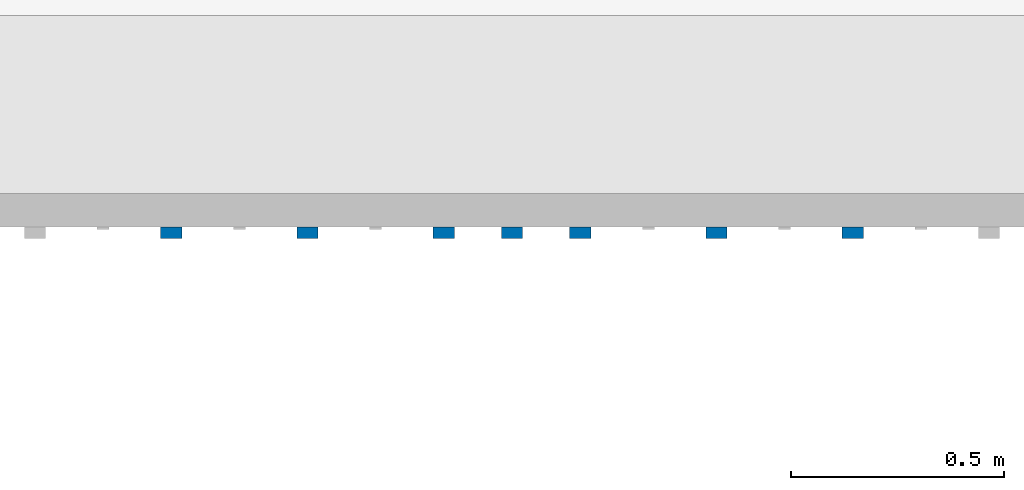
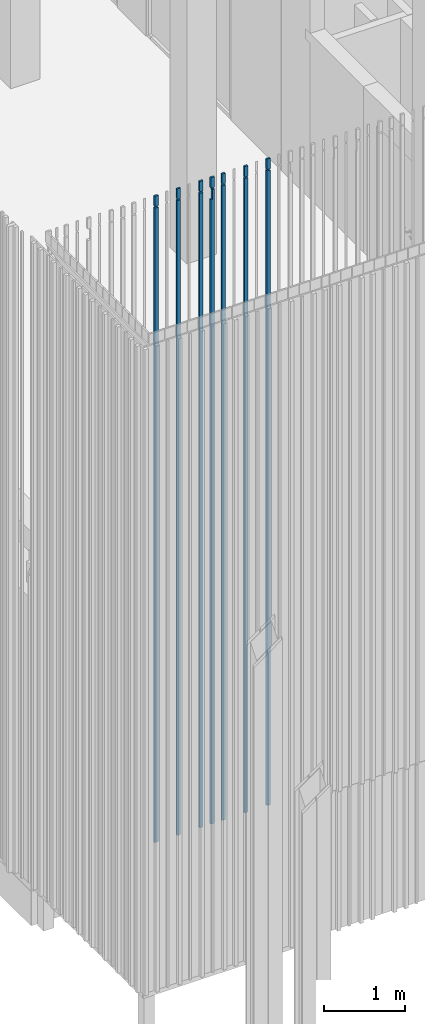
# One storey, part 94 of 390: 7 walls.
"""IFC2X3 building model written with IfcOpenShell, lengths in millimetres."""

from ifc_helpers import new_model, entity, si_unit, converted_unit, derived_unit, money_unit, direction, frame, origin_with_axes, place, context, subcontext, project, spatial, faceted_brep, material, material_list, type_object, element, save


model = new_model("IFC2X3")

# Units and contexts
model_context = context("Model", 3, precision=1e-05, world=origin_with_axes(), true_north=direction((0.0, 1.0)))
body_context = subcontext(model_context, "Body", "Model", "MODEL_VIEW")
ifc_project = project(units=[si_unit("LENGTHUNIT", "METRE", prefix="MILLI"), si_unit("AREAUNIT", "SQUARE_METRE"), si_unit("VOLUMEUNIT", "CUBIC_METRE"), converted_unit("PLANEANGLEUNIT", "DEGREE", entity("IfcPlaneAngleMeasure", 0.0174532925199), si_unit("PLANEANGLEUNIT", "RADIAN"), dimensions=[0, 0, 0, 0, 0, 0, 0]), si_unit("SOLIDANGLEUNIT", "STERADIAN"), money_unit("EUR"), converted_unit("TIMEUNIT", "Year", entity("IfcTimeMeasure", 31556926.0), si_unit("TIMEUNIT", "SECOND"), dimensions=[0, 0, 1, 0, 0, 0, 0]), si_unit("MASSUNIT", "GRAM", prefix="KILO"), si_unit("THERMODYNAMICTEMPERATUREUNIT", "DEGREE_CELSIUS"), si_unit("LUMINOUSINTENSITYUNIT", "LUMEN"), si_unit("ENERGYUNIT", "JOULE", prefix="MEGA"), derived_unit("THERMALCONDUCTANCEUNIT", [(si_unit("POWERUNIT", "WATT"), 1), (si_unit("LENGTHUNIT", "METRE"), -1), (si_unit("THERMODYNAMICTEMPERATUREUNIT", "KELVIN"), -1)]), derived_unit("SPECIFICHEATCAPACITYUNIT", [(si_unit("ENERGYUNIT", "JOULE"), 1), (si_unit("MASSUNIT", "GRAM", prefix="KILO"), -1), (si_unit("THERMODYNAMICTEMPERATUREUNIT", "KELVIN"), -1)]), derived_unit("MASSDENSITYUNIT", [(si_unit("MASSUNIT", "GRAM", prefix="KILO"), 1), (si_unit("VOLUMEUNIT", "CUBIC_METRE"), -1)])], contexts=[model_context])

# Site, building, storey
site_placement = place(None, origin_with_axes())
site = spatial("IfcSite", under=ifc_project, at=site_placement, Name="Site", CompositionType="ELEMENT")
building_placement = place(site_placement, origin_with_axes())
building = spatial("IfcBuilding", under=site, at=building_placement, Name="Building", CompositionType="ELEMENT")
storey_placement = place(building_placement, origin_with_axes())
storey = spatial("IfcBuildingStorey", under=building, at=storey_placement, Name="1 korrus", CompositionType="ELEMENT", Elevation=0.0)

# Walls
ifc_material = material(Name="Site specified")
ifc_material_list = material_list([ifc_material, ifc_material])
wall_type = type_object("IfcWallType", Name="Puitfassaadi ribistik", PredefinedType="NOTDEFINED")
wall_1_placement = place(storey_placement, frame((124543.999994, 45260.9999135, 100.000000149), z_axis=(0.0, 0.0, 1.0), x_axis=(-1.0, 0.0, 0.0)))
element("IfcWall", 1, at=wall_1_placement, inside=storey, type_object=wall_type, material=ifc_material_list, Name="Site specified", context=body_context, shape_type="Brep", body=[
    faceted_brep([(25.0, -1.99999861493, -3.12924797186e-06), (25.0, -2.0000949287, 9591.91726162), (-25.0, -2.00009493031, 9591.91726162), (-25.0, -1.99999861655, -3.12924797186e-06), (25.0, 25.0, 0.0), (25.0, 25.0, 9586.17821428), (-25.0, 25.0, 9586.17821428), (-25.0, 25.0, 0.0)], [[[0, 1, 2, 3]], [[4, 5, 1, 0]], [[5, 6, 2, 1]], [[3, 2, 6, 7]], [[0, 3, 7, 4]], [[7, 6, 5, 4]]]),
    faceted_brep([(-25.0, 25.0, 9764.99999985), (-25.0, 25.0, 9607.64736677), (-25.0, -2.00009493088, 9613.38641411), (-25.0, -2.00009493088, 9764.99999985), (25.0, 25.0, 9764.99999985), (25.0, 25.0, 9607.64736677), (25.0, -2.00009492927, 9613.38641411), (25.0, -2.00009492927, 9764.99999985)], [[[0, 1, 2, 3]], [[4, 5, 1, 0]], [[5, 6, 2, 1]], [[3, 2, 6, 7]], [[3, 7, 4, 0]], [[7, 6, 5, 4]]]),
])
wall_2_placement = place(storey_placement, frame((124863.999994, 45260.999921, 100.000000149), z_axis=(0.0, 0.0, 1.0), x_axis=(-1.0, 0.0, 0.0)))
element("IfcWall", 2, at=wall_2_placement, inside=storey, type_object=wall_type, material=ifc_material_list, Name="Site specified", context=body_context, shape_type="Brep", body=[
    faceted_brep([(25.0, -1.99999111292, -3.12924797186e-06), (25.0, -2.00008742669, 9591.91726162), (-25.0, -2.00008742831, 9591.91726162), (-25.0, -1.99999111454, -3.12924797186e-06), (25.0, 25.0, 0.0), (25.0, 25.0, 9586.17821587), (-25.0, 25.0, 9586.17821587), (-25.0, 25.0, 0.0)], [[[0, 1, 2, 3]], [[4, 5, 1, 0]], [[5, 6, 2, 1]], [[3, 2, 6, 7]], [[0, 3, 7, 4]], [[7, 6, 5, 4]]]),
    faceted_brep([(-25.0, 25.0, 9764.99999985), (-25.0, 25.0, 9607.64736836), (-25.0, -2.00008742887, 9613.38641411), (-25.0, -2.00008742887, 9764.99999985), (25.0, 25.0, 9764.99999985), (25.0, 25.0, 9607.64736836), (25.0, -2.00008742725, 9613.38641411), (25.0, -2.00008742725, 9764.99999985)], [[[0, 1, 2, 3]], [[4, 5, 1, 0]], [[5, 6, 2, 1]], [[3, 2, 6, 7]], [[3, 7, 4, 0]], [[7, 6, 5, 4]]]),
])
wall_3_placement = place(storey_placement, frame((125023.999994, 45260.9999709, 100.000000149), z_axis=(0.0, 0.0, 1.0), x_axis=(-1.0, 0.0, 0.0)))
element("IfcWall", 3, at=wall_3_placement, inside=storey, type_object=wall_type, material=ifc_material_list, Name="Site specified", context=body_context, shape_type="Brep", body=[
    faceted_brep([(25.0, -1.99994119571, -3.12924797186e-06), (25.0, -2.00003751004, 9438.5673503), (4.00003341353, -2.00003751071, 9438.5673503), (4.00003341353, -1.99979468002, 9591.91840404), (-25.0, -2.00003751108, 9591.91726162), (-25.0, -1.99994119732, -3.12924797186e-06), (25.0, 25.0, 0.0), (25.0, 25.0, 9432.8283012), (4.00003341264, 25.0, 9432.8283012), (4.00003341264, 25.0002399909, 9586.17935555), (-25.0, 25.0, 9586.17822648), (-25.0, 25.0, 0.0)], [[[0, 1, 2, 3, 4, 5]], [[6, 7, 1, 0]], [[8, 2, 1, 7]], [[8, 9, 3, 2]], [[4, 3, 9, 10]], [[11, 5, 4, 10]], [[6, 0, 5, 11]], [[9, 8, 7, 6, 11, 10]]]),
    faceted_brep([(-25.0, 25.0, 9764.99999985), (-25.0, 25.0, 9607.64737897), (-25.0, -2.00003751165, 9613.38641411), (-25.0, -2.00003751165, 9764.99999985), (25.0, 25.0, 9764.99999985), (25.0, 25.0, 9607.64737897), (25.0, -2.00003751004, 9613.38641411), (25.0, -2.00003751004, 9764.99999985)], [[[0, 1, 2, 3]], [[4, 5, 1, 0]], [[5, 6, 2, 1]], [[3, 2, 6, 7]], [[3, 7, 4, 0]], [[7, 6, 5, 4]]]),
])
wall_4_placement = place(storey_placement, frame((125183.999994, 45260.9999709, 100.000000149), z_axis=(0.0, 0.0, 1.0), x_axis=(-1.0, 0.0, 0.0)))
element("IfcWall", 4, at=wall_4_placement, inside=storey, type_object=wall_type, material=ifc_material_list, Name="Site specified", context=body_context, shape_type="Brep", body=[
    faceted_brep([(25.0, -1.99994119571, -3.12924797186e-06), (25.0, -2.00003750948, 9591.91726162), (-25.0, -2.00003751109, 9591.91726162), (-25.0, -1.99994119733, -3.12924797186e-06), (25.0, 25.0, 0.0), (25.0, 25.0, 9586.17822648), (-25.0, 25.0, 9586.17822648), (-25.0, 25.0, 0.0)], [[[0, 1, 2, 3]], [[4, 5, 1, 0]], [[5, 6, 2, 1]], [[3, 2, 6, 7]], [[0, 3, 7, 4]], [[7, 6, 5, 4]]]),
    faceted_brep([(-25.0, 25.0, 9764.99999985), (-25.0, 25.0, 9607.64737897), (-25.0, -2.00003751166, 9613.38641411), (-25.0, -2.00003751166, 9764.99999985), (25.0, 25.0, 9764.99999985), (25.0, 25.0, 9607.64737897), (25.0, -2.00003751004, 9613.38641411), (25.0, -2.00003751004, 9764.99999985)], [[[0, 1, 2, 3]], [[4, 5, 1, 0]], [[5, 6, 2, 1]], [[3, 2, 6, 7]], [[3, 7, 4, 0]], [[7, 6, 5, 4]]]),
])
wall_5_placement = place(storey_placement, frame((125823.999994, 45260.999921, 100.000000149), z_axis=(0.0, 0.0, 1.0), x_axis=(-1.0, 0.0, 0.0)))
element("IfcWall", 5, at=wall_5_placement, inside=storey, type_object=wall_type, material=ifc_material_list, Name="Site specified", context=body_context, shape_type="Brep", body=[
    faceted_brep([(25.0, -1.99999111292, -3.12924797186e-06), (25.0, -2.00008742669, 9591.91726162), (-25.0, -2.0000874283, 9591.91726162), (-25.0, -1.99999111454, -3.12924797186e-06), (25.0, 25.0, 0.0), (25.0, 25.0, 9586.17821587), (-25.0, 25.0, 9586.17821587), (-25.0, 25.0, 0.0)], [[[0, 1, 2, 3]], [[4, 5, 1, 0]], [[5, 6, 2, 1]], [[3, 2, 6, 7]], [[0, 3, 7, 4]], [[7, 6, 5, 4]]]),
    faceted_brep([(-25.0, 25.0, 9764.99999985), (-25.0, 25.0, 9607.64736836), (-25.0, -2.00008742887, 9613.38641411), (-25.0, -2.00008742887, 9764.99999985), (25.0, 25.0, 9764.99999985), (25.0, 25.0, 9607.64736836), (25.0, -2.00008742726, 9613.38641411), (25.0, -2.00008742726, 9764.99999985)], [[[0, 1, 2, 3]], [[4, 5, 1, 0]], [[5, 6, 2, 1]], [[3, 2, 6, 7]], [[3, 7, 4, 0]], [[7, 6, 5, 4]]]),
])
wall_6_placement = place(storey_placement, frame((125503.999994, 45260.9999709, 100.000000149), z_axis=(0.0, 0.0, 1.0), x_axis=(-1.0, 0.0, 0.0)))
element("IfcWall", 6, at=wall_6_placement, inside=storey, type_object=wall_type, material=ifc_material_list, Name="Site specified", context=body_context, shape_type="Brep", body=[
    faceted_brep([(25.0, -1.99994119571, -3.12924797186e-06), (25.0, -2.00003750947, 9591.91726162), (-25.0, -2.00003751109, 9591.91726162), (-25.0, -1.99994119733, -3.12924797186e-06), (25.0, 25.0, 0.0), (25.0, 25.0, 9586.17822648), (-25.0, 25.0, 9586.17822648), (-25.0, 25.0, 0.0)], [[[0, 1, 2, 3]], [[4, 5, 1, 0]], [[5, 6, 2, 1]], [[3, 2, 6, 7]], [[0, 3, 7, 4]], [[7, 6, 5, 4]]]),
    faceted_brep([(-25.0, 25.0, 9764.99999985), (-25.0, 25.0, 9607.64737897), (-25.0, -2.00003751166, 9613.38641411), (-25.0, -2.00003751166, 9764.99999985), (25.0, 25.0, 9764.99999985), (25.0, 25.0, 9607.64737897), (25.0, -2.00003751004, 9613.38641411), (25.0, -2.00003751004, 9764.99999985)], [[[0, 1, 2, 3]], [[4, 5, 1, 0]], [[5, 6, 2, 1]], [[3, 2, 6, 7]], [[3, 7, 4, 0]], [[7, 6, 5, 4]]]),
])
wall_7_placement = place(storey_placement, frame((124223.999994, 45260.9999634, 100.000000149), z_axis=(0.0, 0.0, 1.0), x_axis=(-1.0, 0.0, 0.0)))
element("IfcWall", 7, at=wall_7_placement, inside=storey, type_object=wall_type, material=ifc_material_list, Name="Site specified", context=body_context, shape_type="Brep", body=[
    faceted_brep([(25.0, -1.99994869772, -3.12924797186e-06), (25.0, -2.00004501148, 9591.91726162), (-25.0, -2.0000450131, 9591.91726162), (-25.0, -1.99994869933, -3.12924797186e-06), (25.0, 25.0, 0.0), (25.0, 25.0, 9586.17822489), (-25.0, 25.0, 9586.17822489), (-25.0, 25.0, 0.0)], [[[0, 1, 2, 3]], [[4, 5, 1, 0]], [[5, 6, 2, 1]], [[3, 2, 6, 7]], [[0, 3, 7, 4]], [[7, 6, 5, 4]]]),
    faceted_brep([(-25.0, 25.0, 9764.99999985), (-25.0, 25.0, 9607.64737738), (-25.0, -2.00004501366, 9613.38641411), (-25.0, -2.00004501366, 9764.99999985), (25.0, 25.0, 9764.99999985), (25.0, 25.0, 9607.64737738), (25.0, -2.00004501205, 9613.38641411), (25.0, -2.00004501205, 9764.99999985)], [[[0, 1, 2, 3]], [[4, 5, 1, 0]], [[5, 6, 2, 1]], [[3, 2, 6, 7]], [[3, 7, 4, 0]], [[7, 6, 5, 4]]]),
])

save(model, "model.ifc")
